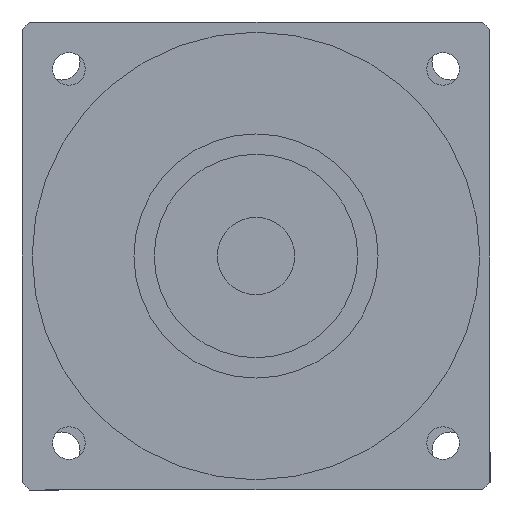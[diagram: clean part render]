
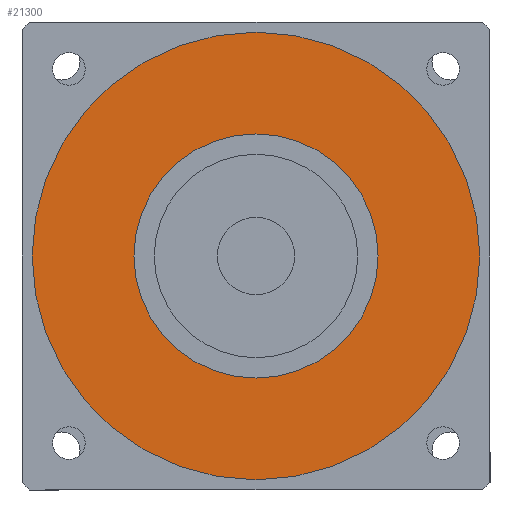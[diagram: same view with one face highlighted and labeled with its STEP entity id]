
A CAD part, left-side view. The second image highlights one B-rep face of the part: STEP entity #21300.
In plain terms, the highlighted planar face has unit normal (-1, 0, 0) as drawn and (0, 0, -1) by its records, which use the part's own axes.
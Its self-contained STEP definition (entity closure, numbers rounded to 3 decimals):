
#20720=CARTESIAN_POINT('',(-55.,0.,-96.5));
#20730=VERTEX_POINT('',#20720);
#20820=CARTESIAN_POINT('',(55.,0.,-96.5));
#20830=VERTEX_POINT('',#20820);
#20860=CARTESIAN_POINT('',(0.,0.,
-96.5));
#20870=DIRECTION('',(0.,0.,1.));
#20880=DIRECTION('',(0.,-1.,0.));
#20890=AXIS2_PLACEMENT_3D('',#20860,#20870,#20880);
#20900=CIRCLE('',#20890,55.);
#20910=CARTESIAN_POINT('',(0.,-55.,-96.5));
#20920=VERTEX_POINT('',#20910);
#20930=EDGE_CURVE('',#20920,#20830,#20900,.T.);
#20950=EDGE_CURVE('',#20730,#20920,#20900,.T.);
#21000=CARTESIAN_POINT('',(0.,0.,
-96.5));
#21010=DIRECTION('',(0.,0.,1.));
#21020=DIRECTION('',(-1.,0.,0.));
#21030=AXIS2_PLACEMENT_3D('',#21000,#21010,#21020);
#21040=PLANE('',#21030);
#21050=ORIENTED_EDGE('',*,*,#20930,.F.);
#21060=EDGE_CURVE('',#20830,#20730,#20900,.T.);
#21070=ORIENTED_EDGE('',*,*,#21060,.F.);
#21080=ORIENTED_EDGE('',*,*,#20950,.F.);
#21090=EDGE_LOOP('',(#21080,#21070,#21050));
#21100=FACE_OUTER_BOUND('',#21090,.T.);
#21110=CARTESIAN_POINT('',(0.,0.,
-96.5));
#21120=DIRECTION('',(0.,0.,1.));
#21130=DIRECTION('',(0.,-1.,0.));
#21140=AXIS2_PLACEMENT_3D('',#21110,#21120,#21130);
#21150=CIRCLE('',#21140,30.);
#21160=CARTESIAN_POINT('',(30.,0.,-96.5));
#21170=VERTEX_POINT('',#21160);
#21180=CARTESIAN_POINT('',(-30.,0.,-96.5));
#21190=VERTEX_POINT('',#21180);
#21200=EDGE_CURVE('',#21170,#21190,#21150,.T.);
#21210=ORIENTED_EDGE('',*,*,#21200,.T.);
#21220=CARTESIAN_POINT('',(0.,-30.,-96.5));
#21230=VERTEX_POINT('',#21220);
#21240=EDGE_CURVE('',#21230,#21170,#21150,.T.);
#21250=ORIENTED_EDGE('',*,*,#21240,.T.);
#21260=EDGE_CURVE('',#21190,#21230,#21150,.T.);
#21270=ORIENTED_EDGE('',*,*,#21260,.T.);
#21280=EDGE_LOOP('',(#21270,#21250,#21210));
#21290=FACE_BOUND('',#21280,.T.);
#21300=ADVANCED_FACE('',(#21100,#21290),#21040,.F.);
